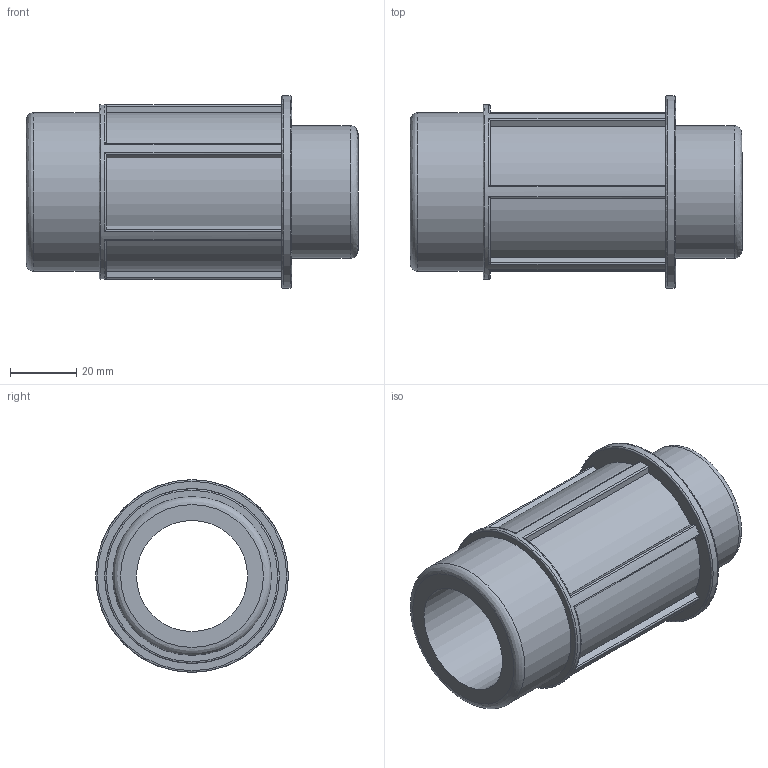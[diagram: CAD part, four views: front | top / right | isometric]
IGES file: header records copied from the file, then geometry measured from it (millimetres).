
Global section: file name: 078901040015.ipt; native system: Autodesk Inventor 2015; preprocessor: unknown; author: KIM; date: 20180409.130855; units: millimetre
Bounding box: 100 x 58 x 58 mm (x, y, z)
Volume: 86649.5 mm3; surface area: 30319.8 mm2
Topology: 1 solids, 1 shells, 57 faces, 163 edges, 111 vertices
Faces by surface type: plane 23, cylinder 22, revolution 12
Full cylindrical faces by diameter (mm): 40 x1, 47.803 x1, 52.583 x1, 58 x1
